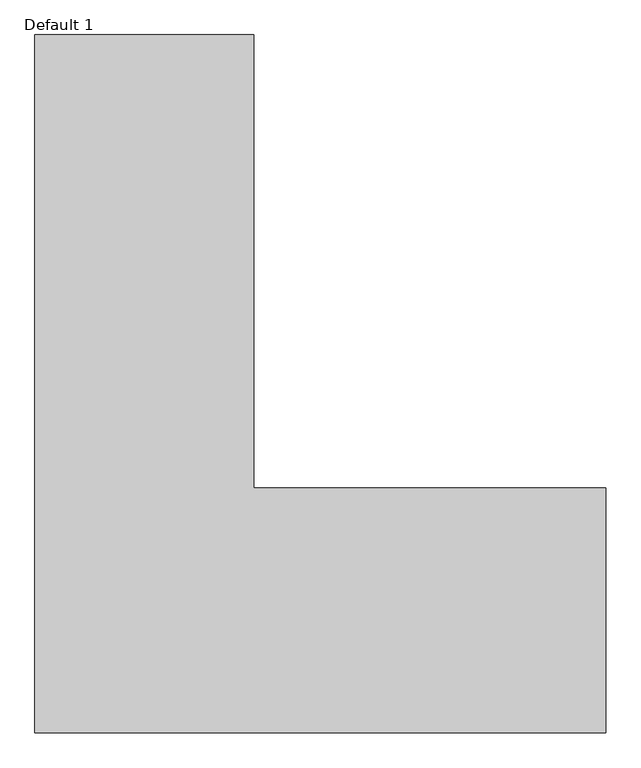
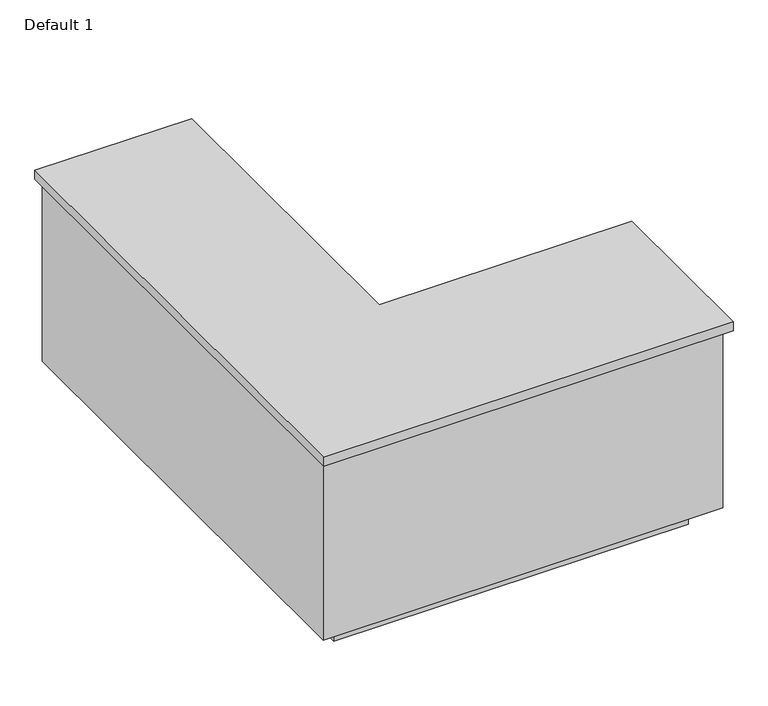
"""IFC4 building model written with IfcOpenShell, lengths in millimetres: proxy geometry, Countertop- L  Shape base : Default 1."""

from ifc_helpers import new_model, si_unit, frame, origin, origin_with_axes, place, context, project, spatial, polyline, outline, extrude, source, transform, mapped, element, save


def default_1_b07f35ee(model_context):
    return source(origin(), model_context, "Body", "SweptSolid", [
        extrude(outline(polyline([(-132.85, -19.05), (-132.85, 2007.5679625), (502.15, 2007.5679625), (502.15, 692.15), (1524.5, 692.15), (1524.5, -19.05), (-132.85, -19.05)])), frame((0.0, 0.0, 876.3), z_axis=(0.0, 0.0, 1.0), x_axis=(1.0, 0.0, 0.0)), (0.0, 0.0, 1.0), 38.1),
        extrude(outline(polyline([(1505.45, 673.1), (1505.45, 19.05), (-113.8, 19.05), (-113.8, 1988.5179625), (483.1, 1988.5179625), (483.1, 673.1), (1505.45, 673.1)])), frame((0.0, 0.0, 101.6), z_axis=(0.0, 0.0, 1.0), x_axis=(1.0, 0.0, 0.0)), (0.0, 0.0, 1.0), 774.7),
        extrude(outline(polyline([(406.7454163, 1886.9179625), (406.7454163, 571.5), (1422.9, 571.5), (1422.9, 120.65), (-12.2, 120.65), (-12.2, 1886.9179625), (406.7454163, 1886.9179625)])), origin_with_axes(), (0.0, 0.0, 1.0), 101.6),
    ])


if __name__ == "__main__":
    model = new_model("IFC4")
    model_context = context("Model", 3, world=origin())
    ifc_project = project(units=[si_unit("LENGTHUNIT", "METRE", prefix="MILLI")], contexts=[model_context])
    site = spatial("IfcSite", under=ifc_project)
    building = spatial("IfcBuilding", under=site)
    placement = place(None, origin())
    default_1_shape = default_1_b07f35ee(model_context)
    element("IfcBuildingElementProxy", 1, Name="Countertop- L  Shape base : Default 1", ObjectType="Countertop- L  Shape base : Default 1", at=placement, inside=building, context=model_context, shape_type="MappedRepresentation", body=[
        mapped(default_1_shape, transform((0.0, 0.0, 0.0), x_axis=(1.0, 0.0, 0.0), y_axis=(0.0, 1.0, 0.0), z_axis=(0.0, 0.0, 1.0))),
    ])
    save(model, "model.ifc")
